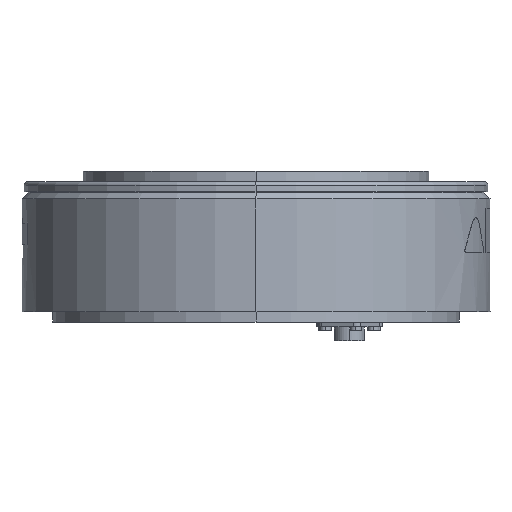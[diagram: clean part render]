
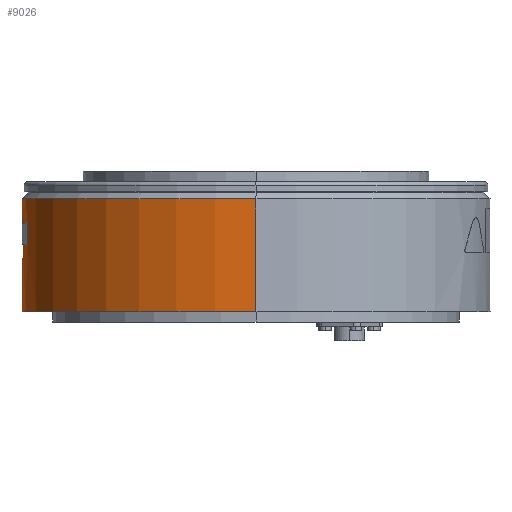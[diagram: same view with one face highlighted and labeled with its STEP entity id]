
A CAD part, left-side view. The second image highlights one B-rep face of the part: STEP entity #9026.
In plain terms, the highlighted cylindrical face has radius 115 mm (diameter 230 mm), a partial arc.
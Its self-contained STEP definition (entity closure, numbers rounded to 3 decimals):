
#2262 = ORIENTED_EDGE ( 'NONE', *, *, #5419, .T. ) ;
#2263 = ORIENTED_EDGE ( 'NONE', *, *, #5418, .T. ) ;
#2264 = ORIENTED_EDGE ( 'NONE', *, *, #5421, .F. ) ;
#2265 = ORIENTED_EDGE ( 'NONE', *, *, #5420, .F. ) ;
#2305 = EDGE_LOOP ( 'NONE', ( #2262, #2263, #2264, #2265 ) ) ;
#2323 = EDGE_LOOP ( 'NONE', ( #4440, #4441, #4442, #4443 ) ) ;
#4440 = ORIENTED_EDGE ( 'NONE', *, *, #5416, .F. ) ;
#4441 = ORIENTED_EDGE ( 'NONE', *, *, #5415, .F. ) ;
#4442 = ORIENTED_EDGE ( 'NONE', *, *, #5410, .F. ) ;
#4443 = ORIENTED_EDGE ( 'NONE', *, *, #5417, .F. ) ;
#5410 = EDGE_CURVE ( 'NONE', #9713, #9712, #6833, .T. ) ;
#5415 = EDGE_CURVE ( 'NONE', #9712, #9710, #6857, .T. ) ;
#5416 = EDGE_CURVE ( 'NONE', #9710, #9711, #6851, .T. ) ;
#5417 = EDGE_CURVE ( 'NONE', #9711, #9713, #6859, .T. ) ;
#5418 = EDGE_CURVE ( 'NONE', #9715, #9716, #6852, .T. ) ;
#5419 = EDGE_CURVE ( 'NONE', #9714, #9715, #6860, .T. ) ;
#5420 = EDGE_CURVE ( 'NONE', #9714, #9717, #6858, .T. ) ;
#5421 = EDGE_CURVE ( 'NONE', #9717, #9716, #6863, .T. ) ;
#5889 = AXIS2_PLACEMENT_3D ( 'NONE', #7225, #7235, #7236 ) ;
#5903 = AXIS2_PLACEMENT_3D ( 'NONE', #7227, #7231, #7232 ) ;
#5904 = AXIS2_PLACEMENT_3D ( 'NONE', #7240, #7242, #7243 ) ;
#5909 = AXIS2_PLACEMENT_3D ( 'NONE', #7237, #7247, #7248 ) ;
#6833 = LINE ( 'NONE', #7226, #6848 ) ;
#6848 = VECTOR ( 'NONE', #7228, 1000. ) ;
#6849 = VECTOR ( 'NONE', #7234, 1000. ) ;
#6851 = LINE ( 'NONE', #7233, #6849 ) ;
#6852 = LINE ( 'NONE', #7238, #6856 ) ;
#6855 = VECTOR ( 'NONE', #7245, 1000. ) ;
#6856 = VECTOR ( 'NONE', #7239, 1000. ) ;
#6857 = CIRCLE ( 'NONE', #5903, 115. ) ;
#6858 = LINE ( 'NONE', #7244, #6855 ) ;
#6859 = CIRCLE ( 'NONE', #5889, 115. ) ;
#6860 = CIRCLE ( 'NONE', #5904, 115. ) ;
#6863 = CIRCLE ( 'NONE', #5909, 115. ) ;
#7225 = CARTESIAN_POINT ( 'NONE',  ( 0., 0., 48.5 ) ) ;
#7226 = CARTESIAN_POINT ( 'NONE',  ( 25., 112.25, 0. ) ) ;
#7227 = CARTESIAN_POINT ( 'NONE',  ( 0., 0., 38. ) ) ;
#7228 = DIRECTION ( 'NONE',  ( 0., 0., -1. ) ) ;
#7231 = DIRECTION ( 'NONE',  ( 0., 0., 1. ) ) ;
#7232 = DIRECTION ( 'NONE',  ( -1., 0., 0. ) ) ;
#7233 = CARTESIAN_POINT ( 'NONE',  ( -25., 112.25, 0. ) ) ;
#7234 = DIRECTION ( 'NONE',  ( 0., 0., 1. ) ) ;
#7235 = DIRECTION ( 'NONE',  ( 0., 0., -1. ) ) ;
#7236 = DIRECTION ( 'NONE',  ( 1., 0., 0. ) ) ;
#7237 = CARTESIAN_POINT ( 'NONE',  ( 0., 0., 5. ) ) ;
#7238 = CARTESIAN_POINT ( 'NONE',  ( 115., 0., 0. ) ) ;
#7239 = DIRECTION ( 'NONE',  ( 0., 0., -1. ) ) ;
#7240 = CARTESIAN_POINT ( 'NONE',  ( 0., 0., 60.5 ) ) ;
#7242 = DIRECTION ( 'NONE',  ( 0., 0., -1. ) ) ;
#7243 = DIRECTION ( 'NONE',  ( -1., 0., 0. ) ) ;
#7244 = CARTESIAN_POINT ( 'NONE',  ( -115., 0., 0. ) ) ;
#7245 = DIRECTION ( 'NONE',  ( 0., 0., -1. ) ) ;
#7247 = DIRECTION ( 'NONE',  ( 0., 0., -1. ) ) ;
#7248 = DIRECTION ( 'NONE',  ( -1., 0., 0. ) ) ;
#8203 = AXIS2_PLACEMENT_3D ( 'NONE', #8453, #8452, #8451 ) ;
#8305 = FACE_BOUND ( 'NONE', #2323, .T. ) ;
#8307 = CYLINDRICAL_SURFACE ( 'NONE', #8203, 115. ) ;
#8313 = FACE_OUTER_BOUND ( 'NONE', #2305, .T. ) ;
#8451 = DIRECTION ( 'NONE',  ( -1., 0., 0. ) ) ;
#8452 = DIRECTION ( 'NONE',  ( 0., 0., -1. ) ) ;
#8453 = CARTESIAN_POINT ( 'NONE',  ( 0., 0., 0. ) ) ;
#8751 = CARTESIAN_POINT ( 'NONE',  ( -25., 112.25, 38. ) ) ;
#8752 = CARTESIAN_POINT ( 'NONE',  ( -25., 112.25, 48.5 ) ) ;
#8753 = CARTESIAN_POINT ( 'NONE',  ( 25., 112.25, 38. ) ) ;
#8754 = CARTESIAN_POINT ( 'NONE',  ( 25., 112.25, 48.5 ) ) ;
#8755 = CARTESIAN_POINT ( 'NONE',  ( -115., 0., 60.5 ) ) ;
#8756 = CARTESIAN_POINT ( 'NONE',  ( 115., 0., 60.5 ) ) ;
#8757 = CARTESIAN_POINT ( 'NONE',  ( 115., 0., 5. ) ) ;
#8758 = CARTESIAN_POINT ( 'NONE',  ( -115., 0., 5. ) ) ;
#9026 = ADVANCED_FACE ( 'NONE', ( #8305, #8313 ), #8307, .T. ) ;
#9710 = VERTEX_POINT ( 'NONE', #8751 ) ;
#9711 = VERTEX_POINT ( 'NONE', #8752 ) ;
#9712 = VERTEX_POINT ( 'NONE', #8753 ) ;
#9713 = VERTEX_POINT ( 'NONE', #8754 ) ;
#9714 = VERTEX_POINT ( 'NONE', #8755 ) ;
#9715 = VERTEX_POINT ( 'NONE', #8756 ) ;
#9716 = VERTEX_POINT ( 'NONE', #8757 ) ;
#9717 = VERTEX_POINT ( 'NONE', #8758 ) ;
